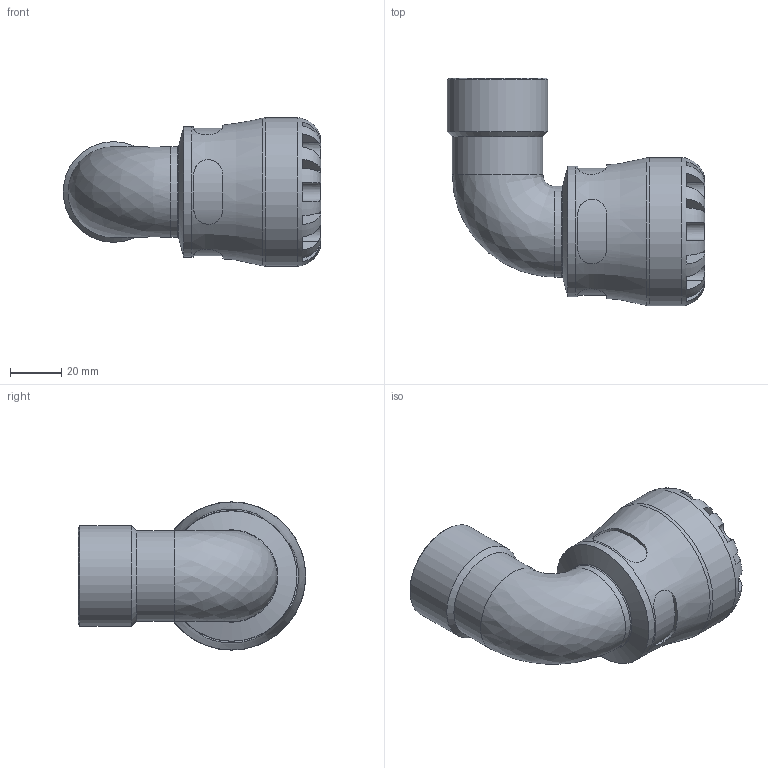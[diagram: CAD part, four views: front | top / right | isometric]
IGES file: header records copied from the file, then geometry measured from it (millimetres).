
Global section: file name: 107600032010_197600032010.ipt; native system: Autodesk Inventor 2015; preprocessor: unknown; author: KIM; date: 20180513.110321; units: millimetre
Bounding box: 100.69 x 89 x 58 mm (x, y, z)
Volume: 112950.4 mm3; surface area: 35034.2 mm2
Topology: 1 solids, 1 shells, 108 faces, 277 edges, 176 vertices
Faces by surface type: plane 60, revolution 28, cylinder 17, cone 3
Full cylindrical faces by diameter (mm): 35.44 x2, 39.378 x1, 51.04 x1, 58 x1
